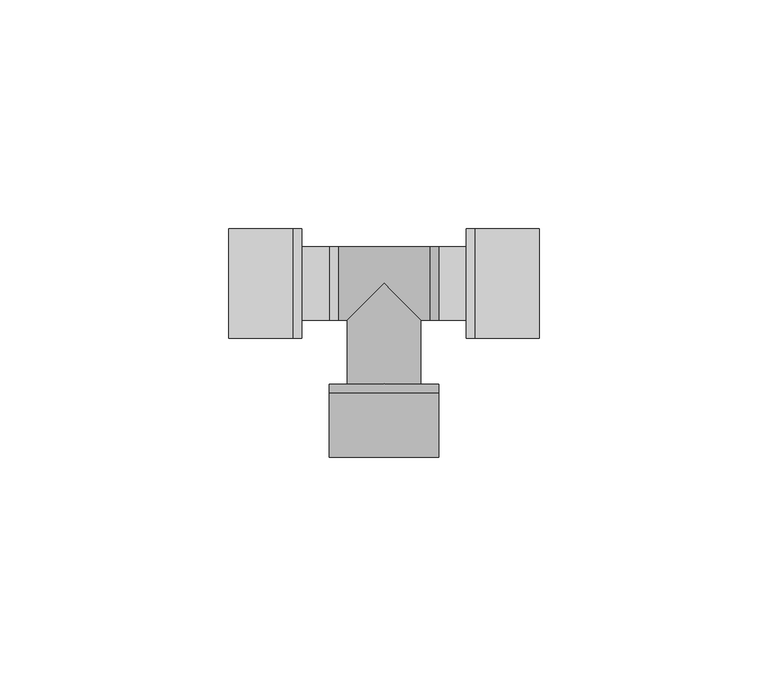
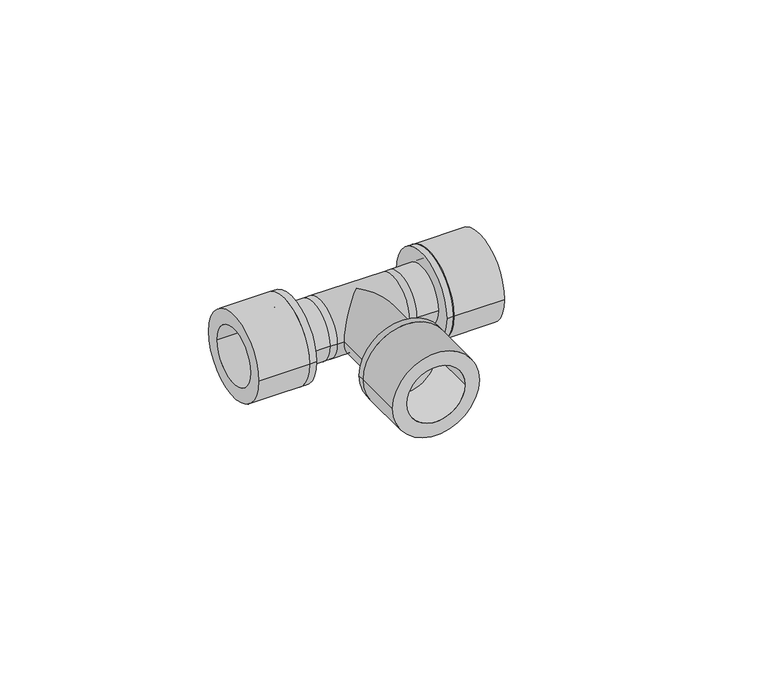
"""IFC4 building model written with IfcOpenShell, lengths in millimetres: pipe fitting geometry, ADSK_Пресс-фитинг ПЭ_Тройник : Пластик черный."""

from ifc_helpers import new_model, si_unit, point, frame, origin, origin_2d, place, context, project, spatial, circle_curve, ellipse_curve, trimmed, segment, composite_curve, outline, extrude, source, transform, mapped, element, save
from ifc_brep_helpers import plane_surface, cylinder_surface, advanced_brep


def pipe_fitting_44bd76dc(model_context):
    return source(origin(), model_context, "Body", "SolidModel", [
        extrude(outline(composite_curve([segment(trimmed(circle_curve(origin_2d(), 12.0), [point((-12.0, 0.0))], [point((12.0, 0.0))], False, "CARTESIAN"), True, "CONTINUOUS"), segment(trimmed(circle_curve(origin_2d(), 12.0), [point((12.0, 0.0))], [point((-12.0, 0.0))], False, "CARTESIAN"), True, "CONTINUOUS")], self_intersect=False), holes=[composite_curve([segment(trimmed(circle_curve(origin_2d(), 8.0), [point((-8.0, 0.0))], [point((8.0, 0.0))], True, "CARTESIAN"), True, "CONTINUOUS"), segment(trimmed(circle_curve(origin_2d(), 8.0), [point((8.0, 0.0))], [point((-8.0, 0.0))], True, "CARTESIAN"), True, "CONTINUOUS")], self_intersect=False)]), frame((20.0, 0.0, 0.0), z_axis=(1.0, 0.0, 0.0), x_axis=(0.0, 1.0, 0.0)), (0.0, 0.0, 1.0), 14.0),
        extrude(outline(composite_curve([segment(trimmed(circle_curve(origin_2d(), 12.0), [point((-12.0, 0.0))], [point((12.0, 0.0))], False, "CARTESIAN"), True, "CONTINUOUS"), segment(trimmed(circle_curve(origin_2d(), 12.0), [point((12.0, 0.0))], [point((-12.0, 0.0))], False, "CARTESIAN"), True, "CONTINUOUS")], self_intersect=False), holes=[composite_curve([segment(trimmed(circle_curve(origin_2d(), 8.0), [point((-8.0, 0.0))], [point((8.0, 0.0))], True, "CARTESIAN"), True, "CONTINUOUS"), segment(trimmed(circle_curve(origin_2d(), 8.0), [point((8.0, 0.0))], [point((-8.0, 0.0))], True, "CARTESIAN"), True, "CONTINUOUS")], self_intersect=False)]), frame((-34.0, 0.0, 0.0), z_axis=(1.0, 0.0, 0.0), x_axis=(0.0, 1.0, 0.0)), (0.0, 0.0, 1.0), 14.0),
        extrude(outline(composite_curve([segment(trimmed(circle_curve(origin_2d(), 12.0), [point((0.0, -12.0))], [point((0.0, 12.0))], False, "CARTESIAN"), True, "CONTINUOUS"), segment(trimmed(circle_curve(origin_2d(), 12.0), [point((0.0, 12.0))], [point((0.0, -12.0))], False, "CARTESIAN"), True, "CONTINUOUS")], self_intersect=False), holes=[composite_curve([segment(trimmed(circle_curve(origin_2d(), 8.0), [point((0.0, -8.0))], [point((0.0, 8.0))], True, "CARTESIAN"), True, "CONTINUOUS"), segment(trimmed(circle_curve(origin_2d(), 8.0), [point((0.0, 8.0))], [point((0.0, -8.0))], True, "CARTESIAN"), True, "CONTINUOUS")], self_intersect=False)]), frame((0.0, -38.0, 0.0), z_axis=(0.0, 1.0, 0.0), x_axis=(0.0, 0.0, 1.0)), (0.0, 0.0, 1.0), 14.0),
        advanced_brep(
        [(-18.0, -8.0, 0.0), (-18.0, 8.0, 0.0), (-12.0, 8.0, 0.0), (-12.0, -8.0, 0.0), (-10.0, 8.0, 0.0), (-10.0, -8.0, 0.0), (-8.0, -22.0, 0.0), (8.0, -22.0, 0.0), (8.0, -8.0, 0.0), (0.0, 0.0, 8.0), (-8.0, -8.0, 0.0), (0.0, 0.0, -8.0), (10.0, 8.0, 0.0), (10.0, -8.0, 0.0), (12.0, -8.0, 0.0), (12.0, 8.0, 0.0), (18.0, -8.0, 0.0), (18.0, 8.0, 0.0)],
        [
            (0, 1, circle_curve(frame((-18.0, 0.0, 0.0), z_axis=(-1.0, 0.0, 0.0), x_axis=(0.0, 1.0, 0.0)), 8.0)),
            (1, 0, circle_curve(frame((-18.0, 0.0, 0.0), z_axis=(-1.0, 0.0, 0.0), x_axis=(0.0, 1.0, 0.0)), 8.0)),
            (1, 2),
            (2, 3, circle_curve(frame((-12.0, 0.0, 0.0), z_axis=(-1.0, 0.0, 0.0), x_axis=(0.0, 1.0, 0.0)), 8.0)),
            (3, 0),
            (3, 2, circle_curve(frame((-12.0, 0.0, 0.0), z_axis=(-1.0, 0.0, 0.0), x_axis=(0.0, 1.0, 0.0)), 8.0)),
            (2, 4),
            (4, 5, circle_curve(frame((-10.0, 0.0, 0.0), z_axis=(-1.0, 0.0, 0.0), x_axis=(0.0, 0.0, -1.0)), 8.0)),
            (5, 3),
            (5, 4, circle_curve(frame((-10.0, 0.0, 0.0), z_axis=(-1.0, 0.0, 0.0), x_axis=(0.0, 0.0, 1.0)), 8.0)),
            (6, 7, circle_curve(frame((0.0, -22.0, 0.0), z_axis=(0.0, -1.0, 0.0), x_axis=(1.0, 0.0, 0.0)), 8.0)),
            (7, 6, circle_curve(frame((0.0, -22.0, 0.0), z_axis=(0.0, -1.0, 0.0), x_axis=(1.0, 0.0, 0.0)), 8.0)),
            (7, 8),
            (8, 9, ellipse_curve(frame((0.0, 0.0, 0.0), z_axis=(-0.707106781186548, -0.7071067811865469, 0.0), x_axis=(-0.7071067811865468, 0.7071067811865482, 0.0)), 11.3137085, 8.0)),
            (9, 10, ellipse_curve(frame((0.0, 0.0, 0.0), z_axis=(0.707106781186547, -0.707106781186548, 0.0), x_axis=(0.707106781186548, 0.707106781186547, 0.0)), 11.3137085, 8.0)),
            (10, 6),
            (10, 11, ellipse_curve(frame((0.0, 0.0, 0.0), z_axis=(0.707106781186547, -0.707106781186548, 0.0), x_axis=(0.707106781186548, 0.707106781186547, 0.0)), 11.3137085, 8.0)),
            (11, 8, ellipse_curve(frame((0.0, 0.0, 0.0), z_axis=(-0.707106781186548, -0.7071067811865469, 0.0), x_axis=(-0.7071067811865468, 0.7071067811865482, 0.0)), 11.3137085, 8.0)),
            (12, 4),
            (5, 10),
            (8, 13),
            (13, 12, circle_curve(frame((10.0, 0.0, 0.0), z_axis=(-1.0, 0.0, 0.0), x_axis=(0.0, 1.0, 0.0)), 8.0)),
            (12, 13, circle_curve(frame((10.0, 0.0, 0.0), z_axis=(-1.0, 0.0, 0.0), x_axis=(0.0, 1.0, 0.0)), 8.0)),
            (14, 13),
            (12, 15),
            (15, 14, circle_curve(frame((12.0, 0.0, 0.0), z_axis=(-1.0, 0.0, 0.0), x_axis=(0.0, 0.0, -1.0)), 8.0)),
            (14, 15, circle_curve(frame((12.0, 0.0, 0.0), z_axis=(-1.0, 0.0, 0.0), x_axis=(0.0, 0.0, 1.0)), 8.0)),
            (16, 17, circle_curve(frame((18.0, 0.0, 0.0), z_axis=(1.0, 0.0, 0.0), x_axis=(0.0, 1.0, 0.0)), 8.0)),
            (17, 16, circle_curve(frame((18.0, 0.0, 0.0), z_axis=(1.0, 0.0, 0.0), x_axis=(0.0, 1.0, 0.0)), 8.0)),
            (16, 14),
            (15, 17),
        ],
        [
            plane_surface(frame((-18.0, 8.0, 0.0), z_axis=(-1.0, 0.0, 0.0), x_axis=(0.0, 0.0, -1.0))),
            cylinder_surface(frame((-18.0, 0.0, 0.0), z_axis=(1.0, 0.0, 0.0), x_axis=(0.0, 1.0, 0.0)), 8.0),
            cylinder_surface(frame((-12.0, 0.0, 0.0), z_axis=(1.0, 0.0, 0.0), x_axis=(0.0, 0.0, -1.0)), 8.0),
            cylinder_surface(frame((-12.0, 0.0, 0.0), z_axis=(1.0, 0.0, 0.0), x_axis=(0.0, 0.0, 1.0)), 8.0),
            plane_surface(frame((0.0, -22.0, 0.0), z_axis=(0.0, -1.0, 0.0), x_axis=(0.0, 0.0, 1.0))),
            cylinder_surface(frame((0.0, 0.0, 0.0), z_axis=(0.0, 1.0, 0.0), x_axis=(1.0, 0.0, 0.0)), 8.0),
            cylinder_surface(frame((-10.0, 0.0, 0.0), z_axis=(-1.0, 0.0, 0.0), x_axis=(0.0, 1.0, 0.0)), 8.0),
            cylinder_surface(frame((12.0, 0.0, 0.0), z_axis=(-1.0, 0.0, 0.0), x_axis=(0.0, 0.0, -1.0)), 8.0),
            cylinder_surface(frame((12.0, 0.0, 0.0), z_axis=(-1.0, 0.0, 0.0), x_axis=(0.0, 0.0, 1.0)), 8.0),
            plane_surface(frame((18.0, 8.0, 0.0), z_axis=(1.0, 0.0, 0.0), x_axis=(0.0, 0.0, 1.0))),
            cylinder_surface(frame((12.0, 0.0, 0.0), z_axis=(1.0, 0.0, 0.0), x_axis=(0.0, 1.0, 0.0)), 8.0),
        ],
        [
            (0, [[1, 2]]),
            (1, [[-2, 3, 4, 5]]),
            (1, [[-1, -5, 6, -3]]),
            (2, [[7, 8, 9, -4]]),
            (3, [[-7, -6, -9, 10]]),
            (4, [[11, 12]]),
            (5, [[-12, 13, 14, 15, 16]]),
            (5, [[-11, -16, 17, 18, -13]]),
            (6, [[19, -10, 20, -15, -14, 21, 22]]),
            (6, [[-19, 23, -21, -18, -17, -20, -8]]),
            (7, [[24, -23, 25, 26]]),
            (8, [[-24, 27, -25, -22]]),
            (9, [[28, 29]]),
            (10, [[-28, 30, -26, 31]]),
            (10, [[-29, -31, -27, -30]]),
        ],
    ),
        extrude(outline(composite_curve([segment(trimmed(circle_curve(origin_2d(), 12.0), [point((-12.0, 0.0))], [point((12.0, 0.0))], False, "CARTESIAN"), True, "CONTINUOUS"), segment(trimmed(circle_curve(origin_2d(), 12.0), [point((12.0, 0.0))], [point((-12.0, 0.0))], False, "CARTESIAN"), True, "CONTINUOUS")], self_intersect=False)), frame((18.0, 0.0, 0.0), z_axis=(1.0, 0.0, 0.0), x_axis=(0.0, 1.0, 0.0)), (0.0, 0.0, 1.0), 2.0),
        extrude(outline(composite_curve([segment(trimmed(circle_curve(origin_2d(), 12.0), [point((-12.0, 0.0))], [point((12.0, 0.0))], False, "CARTESIAN"), True, "CONTINUOUS"), segment(trimmed(circle_curve(origin_2d(), 12.0), [point((12.0, 0.0))], [point((-12.0, 0.0))], False, "CARTESIAN"), True, "CONTINUOUS")], self_intersect=False)), frame((-20.0, 0.0, 0.0), z_axis=(1.0, 0.0, 0.0), x_axis=(0.0, 1.0, 0.0)), (0.0, 0.0, 1.0), 2.0),
        extrude(outline(composite_curve([segment(trimmed(circle_curve(origin_2d(), 12.0), [point((0.0, -12.0))], [point((0.0, 12.0))], False, "CARTESIAN"), True, "CONTINUOUS"), segment(trimmed(circle_curve(origin_2d(), 12.0), [point((0.0, 12.0))], [point((0.0, -12.0))], False, "CARTESIAN"), True, "CONTINUOUS")], self_intersect=False)), frame((0.0, -24.0, 0.0), z_axis=(0.0, 1.0, 0.0), x_axis=(0.0, 0.0, 1.0)), (0.0, 0.0, 1.0), 2.0),
    ])


if __name__ == "__main__":
    model = new_model("IFC4")
    model_context = context("Model", 3, world=origin())
    ifc_project = project(units=[si_unit("LENGTHUNIT", "METRE", prefix="MILLI")], contexts=[model_context])
    site = spatial("IfcSite", under=ifc_project)
    building = spatial("IfcBuilding", under=site)
    placement = place(None, origin())
    pipe_fitting_shape = pipe_fitting_44bd76dc(model_context)
    element("IfcPipeFitting", 1, ObjectType="ADSK_Пресс-фитинг ПЭ_Тройник : Пластик черный", at=placement, inside=building, context=model_context, shape_type="MappedRepresentation", body=[
        mapped(pipe_fitting_shape, transform((0.0, 0.0, 0.0), x_axis=(1.0, 0.0, 0.0), y_axis=(0.0, 1.0, 0.0), z_axis=(0.0, 0.0, 1.0))),
    ])
    save(model, "model.ifc")
